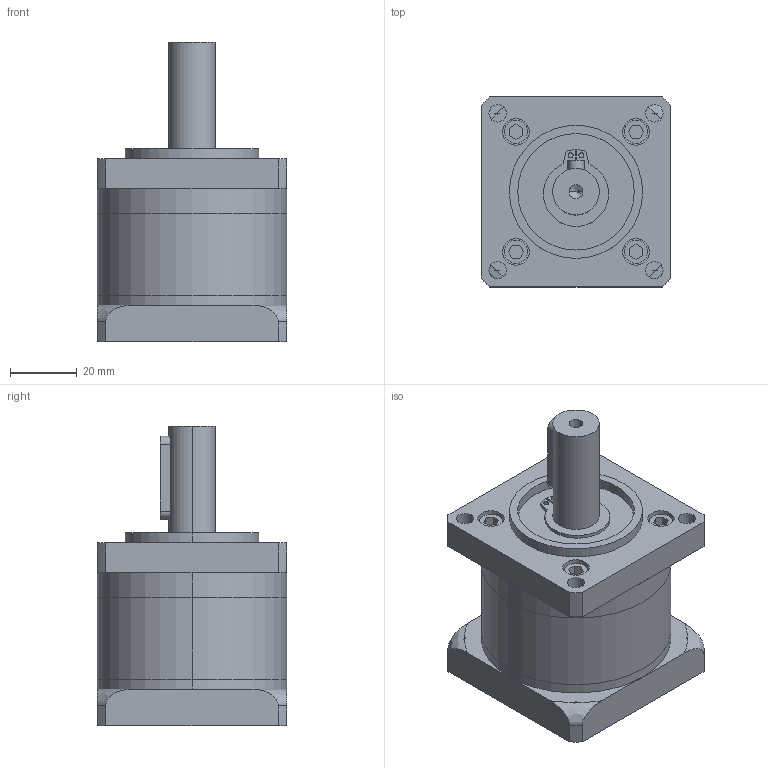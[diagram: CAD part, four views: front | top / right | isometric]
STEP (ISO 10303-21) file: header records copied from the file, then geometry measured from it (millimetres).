
FILE_DESCRIPTION (( 'STEP AP214' ), '1' );
FILE_NAME ('DLF57-L1-( )-J14-A.step', '2020-11-17T06:00:35', ( 'Moofasta' ), ( '' ), 'SwSTEP 2.0', 'SolidWorks 2020', '' );
FILE_SCHEMA (( 'AUTOMOTIVE_DESIGN' ));
Length unit declared in the file: millimetre
Products named in the file (1): DLF57-L1-(    )-J14-A
Bounding box: 57 x 57 x 90 mm (x, y, z)
Volume: 149528.7 mm3; surface area: 40534.7 mm2
Topology: 6 solids, 6 shells, 211 faces, 493 edges, 322 vertices
Faces by surface type: plane 111, cylinder 85, cone 11, bspline 4
Entity records: 6955 total; most frequent: CARTESIAN_POINT 1457, DIRECTION 1065, ORIENTED_EDGE 980, EDGE_CURVE 490, AXIS2_PLACEMENT_3D 384, VERTEX_POINT 322, VECTOR 297, LINE 297
